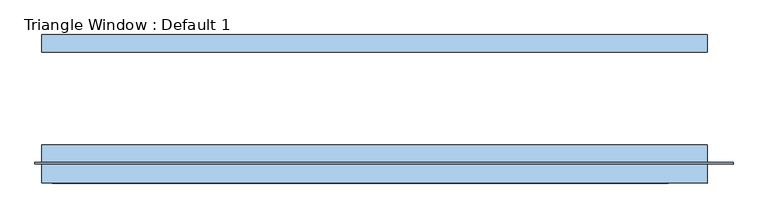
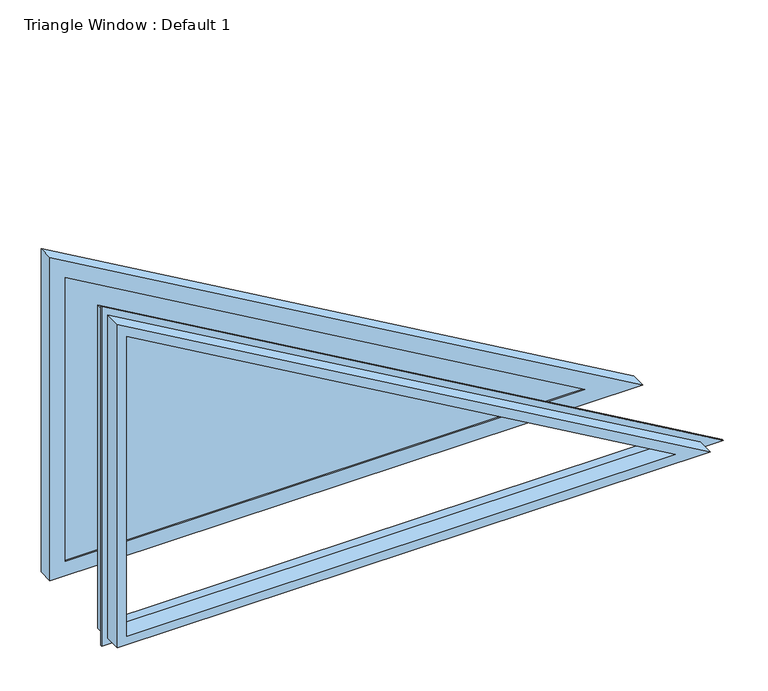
"""IFC4 building model written with IfcOpenShell, lengths in millimetres: window geometry, Triangle Window : Default 1."""

from ifc_helpers import new_model, si_unit, frame, origin, place, context, project, spatial, polyline, outline, extrude, faceted_brep, source, transform, mapped, element, save


def triangle_window_default_1_e67b248f(model_context):
    return source(origin(), model_context, "Body", "SolidModel", [
        extrude(outline(polyline([(1563.3128351, -730.25), (946.15, -730.25), (946.15, 338.7073869), (1563.3128351, -730.25)])), frame((0.0, 78.58125, 0.0), z_axis=(0.0, 1.0, 0.0), x_axis=(0.0, 0.0, 1.0)), (0.0, 0.0, 1.0), 3.175),
        extrude(outline(polyline([(1563.3128351, -730.25), (946.15, -730.25), (946.15, 338.7073869), (1563.3128351, -730.25)])), frame((0.0, 56.35625, 0.0), z_axis=(0.0, 1.0, 0.0), x_axis=(0.0, 0.0, 1.0)), (0.0, 0.0, 1.0), 3.175),
        extrude(outline(polyline([(914.4, 457.2), (1618.3054482, -762.0), (914.4, -762.0), (914.4, 457.2)]), holes=[polyline([(946.15, 338.7073869), (946.15, -730.25), (1563.3128351, -730.25), (946.15, 338.7073869)])]), frame((0.0, 53.18125, 0.0), z_axis=(0.0, 1.0, 0.0), x_axis=(0.0, 0.0, 1.0)), (0.0, 0.0, 1.0), 31.75),
        faceted_brep([(-762.0, -187.325, 914.4), (-762.0, -152.4, 914.4), (457.2, -152.4, 914.4), (457.2, -187.325, 914.4), (-762.0, -152.4, 1618.3054482), (-762.0, -187.325, 1618.3054482), (-774.7, -152.4, 1640.3024935), (-774.7, -152.4, 901.7), (504.5970453, -152.4, 901.7), (-742.95, -187.325, 1585.3098803), (386.1044321, -187.325, 933.45), (-742.95, -187.325, 933.45), (386.1044321, -149.225, 933.45), (-742.95, -149.225, 1585.3098803), (-742.95, -149.225, 933.45), (420.6666852, -117.475, 924.1890722), (-752.2109278, -117.475, 1601.3502778), (-752.2109278, -117.475, 924.1890722), (-762.0, -117.475, 1618.3054482), (457.2, -117.475, 914.4), (-762.0, -117.475, 914.4), (457.2, -149.225, 914.4), (-762.0, -149.225, 1618.3054482), (-762.0, -149.225, 914.4), (-774.7, -149.225, 1640.3024935), (504.5970453, -149.225, 901.7), (-774.7, -149.225, 901.7)], [[[0, 1, 2, 3]], [[3, 2, 4, 5]], [[6, 7, 8], [4, 2, 1]], [[5, 0, 3], [9, 10, 11]], [[12, 10, 9, 13]], [[14, 11, 10, 12]], [[13, 9, 11, 14]], [[5, 4, 1, 0]], [[15, 12, 13, 16]], [[17, 14, 12, 15]], [[18, 19, 20], [16, 17, 15]], [[21, 19, 18, 22]], [[23, 20, 19, 21]], [[22, 18, 20, 23]], [[16, 13, 14, 17]], [[24, 25, 26], [22, 23, 21]], [[8, 25, 24, 6]], [[7, 26, 25, 8]], [[6, 24, 26, 7]]]),
    ])


if __name__ == "__main__":
    model = new_model("IFC4")
    model_context = context("Model", 3, world=origin())
    ifc_project = project(units=[si_unit("LENGTHUNIT", "METRE", prefix="MILLI")], contexts=[model_context])
    site = spatial("IfcSite", under=ifc_project)
    building = spatial("IfcBuilding", under=site)
    placement = place(None, origin())
    triangle_window_default_1_shape = triangle_window_default_1_e67b248f(model_context)
    element("IfcWindow", 1, ObjectType="Triangle Window : Default 1", at=placement, inside=building, context=model_context, shape_type="MappedRepresentation", body=[
        mapped(triangle_window_default_1_shape, transform((0.0, 0.0, 0.0), x_axis=(1.0, 0.0, 0.0), y_axis=(0.0, 1.0, 0.0), z_axis=(0.0, 0.0, 1.0))),
    ])
    save(model, "model.ifc")
